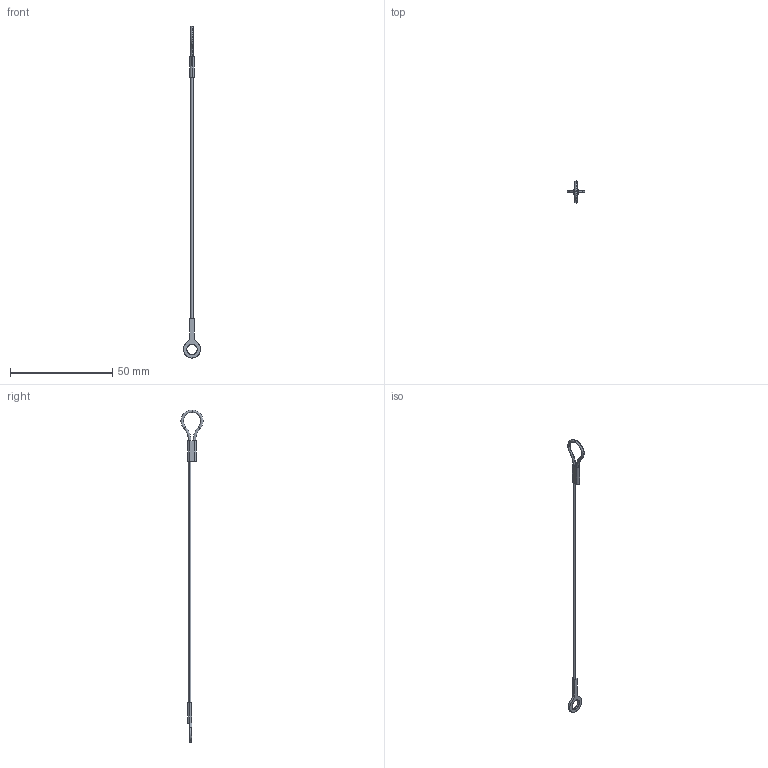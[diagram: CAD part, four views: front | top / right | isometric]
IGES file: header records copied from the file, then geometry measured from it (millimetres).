
Start section: SolidWorks IGES file using analytic representation for surfaces
Global section: file name: C:\Users\ianosborn\Desktop\LA1075_v2\LA1075_v2_20260320_IGES\LA1075.I04-152N1.igs; native system: SolidWorks 2019; preprocessor: SolidWorks 2019; author: IanOsborn; date: 260323.164045; units: millimetre
Bounding box: 8.37 x 10.76 x 161.99 mm (x, y, z)
Surface area: 887.9 mm2 (no closed solid volume)
Topology: 0 solids, 0 shells, 30 faces, 389 edges, 389 vertices
Faces by surface type: bspline 20, revolution 10
